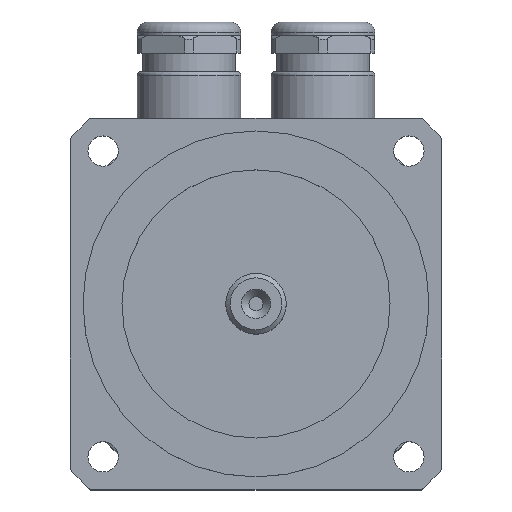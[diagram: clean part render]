
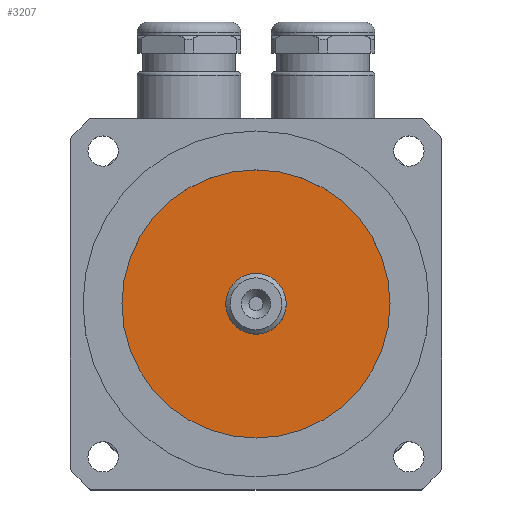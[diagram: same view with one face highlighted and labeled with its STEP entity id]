
A CAD part, top view. The second image highlights one B-rep face of the part: STEP entity #3207.
In plain terms, the highlighted planar face has unit normal (0, 0, 1).
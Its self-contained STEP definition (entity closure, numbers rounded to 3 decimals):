
#816=PLANE('',#1665);
#922=VERTEX_POINT('',#3377);
#931=VERTEX_POINT('',#3469);
#1135=DIRECTION('',(0.,0.,-1.));
#1136=DIRECTION('',(-7.,0.,0.));
#1156=DIRECTION('',(0.,0.,1.));
#1157=DIRECTION('',(-31.,0.,0.));
#1160=DIRECTION('',(0.,0.,-1.));
#1652=AXIS2_PLACEMENT_3D('',#3376,#1135,#1136);
#1663=AXIS2_PLACEMENT_3D('',#3468,#1156,#1157);
#1665=AXIS2_PLACEMENT_3D('',#3472,#1160,$);
#1871=CIRCLE('',#1652,7.);
#1880=CIRCLE('',#1663,31.);
#1975=EDGE_CURVE('',#922,#922,#1871,.T.);
#1984=EDGE_CURVE('',#931,#931,#1880,.T.);
#2289=ORIENTED_EDGE('',*,*,#1984,.T.);
#2290=ORIENTED_EDGE('',*,*,#1975,.T.);
#2885=EDGE_LOOP('',(#2289));
#2886=EDGE_LOOP('',(#2290));
#3051=FACE_BOUND('',#2885,.T.);
#3052=FACE_BOUND('',#2886,.T.);
#3207=ADVANCED_FACE('',(#3051,#3052),#816,.F.);
#3376=CARTESIAN_POINT('',(0.,0.,95.5));
#3377=CARTESIAN_POINT('',(7.,0.,95.5));
#3468=CARTESIAN_POINT('',(0.,0.,95.5));
#3469=CARTESIAN_POINT('',(31.,0.,95.5));
#3472=CARTESIAN_POINT('',(0.,0.,95.5));
